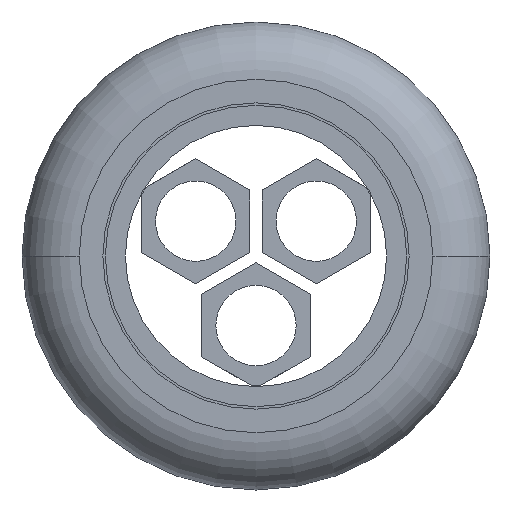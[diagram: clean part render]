
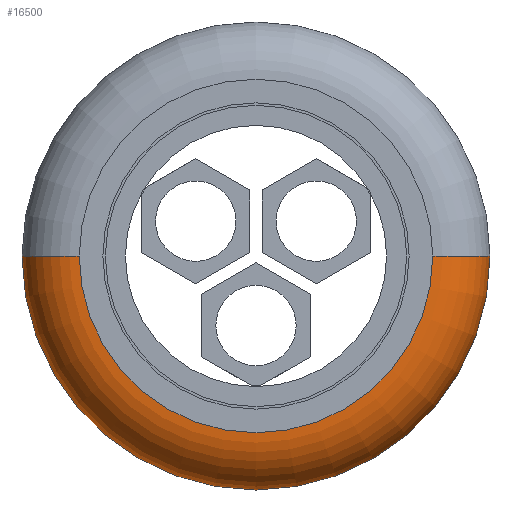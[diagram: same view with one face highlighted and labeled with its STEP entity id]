
A CAD part, front view. The second image highlights one B-rep face of the part: STEP entity #16500.
In plain terms, the highlighted toroidal (fillet/blend) face has major radius 8.8 mm and minor radius 2.85 mm.
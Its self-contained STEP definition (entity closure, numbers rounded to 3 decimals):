
#16070=CARTESIAN_POINT('',(-96.193,14.259,0.));
#16080=DIRECTION('',(0.,-1.,0.));
#16090=DIRECTION('',(1.,0.,0.));
#16100=AXIS2_PLACEMENT_3D('',#16070,#16080,#16090);
#16110=TOROIDAL_SURFACE('',#16100,8.8,2.85);
#16120=CARTESIAN_POINT('',(-104.993,14.259,0.));
#16130=DIRECTION('',(0.,0.,-1.));
#16140=DIRECTION('',(1.,0.,0.));
#16150=AXIS2_PLACEMENT_3D('',#16120,#16130,#16140);
#16160=CIRCLE('',#16150,2.85);
#16170=CARTESIAN_POINT('',(-104.993,11.409,0.));
#16180=VERTEX_POINT('',#16170);
#16190=CARTESIAN_POINT('',(-107.843,14.259,0.));
#16200=VERTEX_POINT('',#16190);
#16210=EDGE_CURVE('',#16180,#16200,#16160,.T.);
#16220=ORIENTED_EDGE('',*,*,#16210,.T.);
#16230=CARTESIAN_POINT('',(-96.193,11.409,0.));
#16240=DIRECTION('',(0.,-1.,0.));
#16250=DIRECTION('',(1.,0.,0.));
#16260=AXIS2_PLACEMENT_3D('',#16230,#16240,#16250);
#16270=CIRCLE('',#16260,8.8);
#16280=CARTESIAN_POINT('',(-87.393,11.409,0.));
#16290=VERTEX_POINT('',#16280);
#16300=EDGE_CURVE('',#16180,#16290,#16270,.T.);
#16310=ORIENTED_EDGE('',*,*,#16300,.F.);
#16320=CARTESIAN_POINT('',(-87.393,14.259,0.));
#16330=DIRECTION('',(0.,0.,1.));
#16340=DIRECTION('',(-1.,0.,0.));
#16350=AXIS2_PLACEMENT_3D('',#16320,#16330,#16340);
#16360=CIRCLE('',#16350,2.85);
#16370=CARTESIAN_POINT('',(-84.543,14.259,0.));
#16380=VERTEX_POINT('',#16370);
#16390=EDGE_CURVE('',#16290,#16380,#16360,.T.);
#16400=ORIENTED_EDGE('',*,*,#16390,.F.);
#16410=CARTESIAN_POINT('',(-96.193,14.259,0.));
#16420=DIRECTION('',(0.,-1.,0.));
#16430=DIRECTION('',(1.,0.,0.));
#16440=AXIS2_PLACEMENT_3D('',#16410,#16420,#16430);
#16450=CIRCLE('',#16440,11.65);
#16460=EDGE_CURVE('',#16200,#16380,#16450,.T.);
#16470=ORIENTED_EDGE('',*,*,#16460,.T.);
#16480=EDGE_LOOP('',(#16470,#16400,#16310,#16220));
#16490=FACE_OUTER_BOUND('',#16480,.T.);
#16500=ADVANCED_FACE('',(#16490),#16110,.T.);
